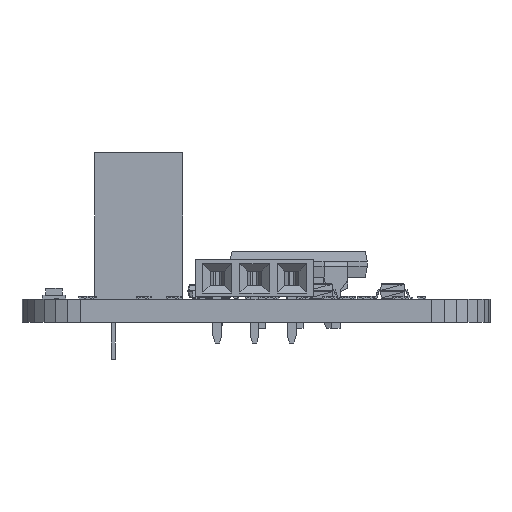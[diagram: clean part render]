
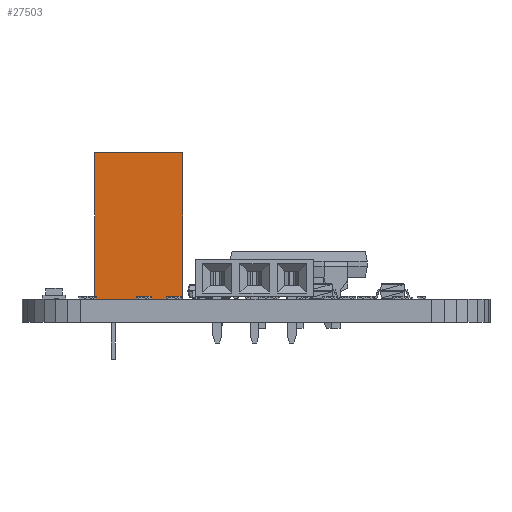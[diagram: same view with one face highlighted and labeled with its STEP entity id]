
A CAD part, left-side view. The second image highlights one B-rep face of the part: STEP entity #27503.
In plain terms, the highlighted planar face has unit normal (-1, 0, 0) as drawn and (1, 0, 0) by its records, which use the part's own axes.
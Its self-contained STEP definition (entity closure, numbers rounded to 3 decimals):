
#27222 = VERTEX_POINT('',#27223);
#27223 = CARTESIAN_POINT('',(5.75,10.,-3.));
#27229 = EDGE_CURVE('',#27230,#27222,#27232,.T.);
#27230 = VERTEX_POINT('',#27231);
#27231 = CARTESIAN_POINT('',(5.75,0.,-3.));
#27232 = LINE('',#27233,#27234);
#27233 = CARTESIAN_POINT('',(5.75,10.,-3.));
#27234 = VECTOR('',#27235,1.);
#27235 = DIRECTION('',(0.,1.,0.));
#27451 = VERTEX_POINT('',#27452);
#27452 = CARTESIAN_POINT('',(5.75,10.,3.));
#27458 = EDGE_CURVE('',#27451,#27222,#27459,.T.);
#27459 = LINE('',#27460,#27461);
#27460 = CARTESIAN_POINT('',(5.75,10.,0.));
#27461 = VECTOR('',#27462,1.);
#27462 = DIRECTION('',(0.,0.,-1.));
#27503 = ADVANCED_FACE('',(#27504),#27522,.F.);
#27504 = FACE_BOUND('',#27505,.T.);
#27505 = EDGE_LOOP('',(#27506,#27507,#27508,#27516));
#27506 = ORIENTED_EDGE('',*,*,#27229,.T.);
#27507 = ORIENTED_EDGE('',*,*,#27458,.F.);
#27508 = ORIENTED_EDGE('',*,*,#27509,.F.);
#27509 = EDGE_CURVE('',#27510,#27451,#27512,.T.);
#27510 = VERTEX_POINT('',#27511);
#27511 = CARTESIAN_POINT('',(5.75,0.,3.));
#27512 = LINE('',#27513,#27514);
#27513 = CARTESIAN_POINT('',(5.75,10.,3.));
#27514 = VECTOR('',#27515,1.);
#27515 = DIRECTION('',(0.,1.,0.));
#27516 = ORIENTED_EDGE('',*,*,#27517,.F.);
#27517 = EDGE_CURVE('',#27230,#27510,#27518,.T.);
#27518 = LINE('',#27519,#27520);
#27519 = CARTESIAN_POINT('',(5.75,0.,-3.));
#27520 = VECTOR('',#27521,1.);
#27521 = DIRECTION('',(0.,0.,1.));
#27522 = PLANE('',#27523);
#27523 = AXIS2_PLACEMENT_3D('',#27524,#27525,#27526);
#27524 = CARTESIAN_POINT('',(5.75,10.,-3.));
#27525 = DIRECTION('',(-1.,0.,0.));
#27526 = DIRECTION('',(0.,0.,1.));
